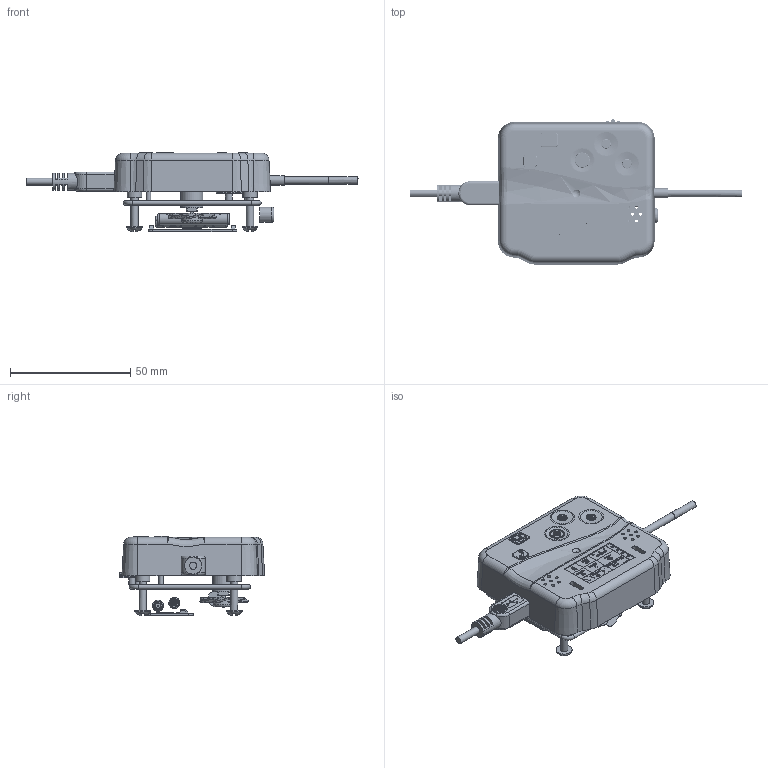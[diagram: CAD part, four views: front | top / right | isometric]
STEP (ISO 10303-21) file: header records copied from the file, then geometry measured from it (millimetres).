
FILE_DESCRIPTION(/* description */ (''),/* implementation_level */ '2;1');
FILE_NAME(/* name */ '样题6.stp',/* time_stamp */ '2021-12-05T11:49:12+08:00',/* author */ (''),/* organization */ (''),/* preprocessor_version */ 'ST-DEVELOPER v16',/* originating_system */ 'SIEMENS PLM Software NX 10.0',/* authorisation */ '');
FILE_SCHEMA (('AUTOMOTIVE_DESIGN { 1 0 10303 214 3 1 1 1 }'));
Products named in the file (25): 耳机线; 保护套02; 拨轮按键; 按键电路板; 固定柱01; USB线; 电路板; 按键; 固定柱02; 紧固螺钉02; 紧固螺钉03; 紧固螺钉01; 紧固螺钉04; 电池盖板; 风扇; 静音键; 电源键; 确认和方向键; 行车记录仪屏幕; 前盖; 电话按键; 相机按键; 电池02; 电池01; 样题6
Assembly tree (24 placements, depth 2):
  样题6
    电池01
    电池02
    相机按键
    电话按键
    前盖
    行车记录仪屏幕
    确认和方向键
    电源键
    静音键
    风扇
    电池盖板
    紧固螺钉04
    紧固螺钉01
    紧固螺钉03
    紧固螺钉02
    固定柱02
    按键
    电路板
    USB线
    固定柱01
    按键电路板
    拨轮按键
    保护套02
    耳机线
Bounding box: 137.94 x 60.33 x 33.24 mm (x, y, z)
Volume: 26207.6 mm3; surface area: 31300.9 mm2
Topology: 24 solids, 26 shells, 3670 faces, 9692 edges, 6432 vertices
Faces by surface type: plane 2447, cylinder 861, extrusion 156, torus 75, bspline 71, cone 29, sphere 17, revolution 14
Full cylindrical faces by diameter (mm): 0.032 x1, 0.116 x1, 0.197 x1, 0.336 x1, 0.523 x1, 0.543 x1, 0.878 x1, 1.2 x14, 1.369 x2, 1.705 x1, 1.825 x2, 1.932 x1, 2.428 x1, 2.469 x1, 2.603 x1, 2.793 x1, 2.892 x1, 2.901 x1, 2.91 x1, 3 x86, 3.042 x1, 3.206 x1, 3.208 x1, 3.228 x1, 3.321 x4, 3.344 x4, 3.4 x4, 3.5 x2, 3.881 x2, 4 x1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
Entity records: 146271 total; most frequent: CARTESIAN_POINT 57499, ORIENTED_EDGE 18440, DIRECTION 16773, EDGE_CURVE 9220, VECTOR 6753, LINE 6597, VERTEX_POINT 6194, AXIS2_PLACEMENT_3D 5003
